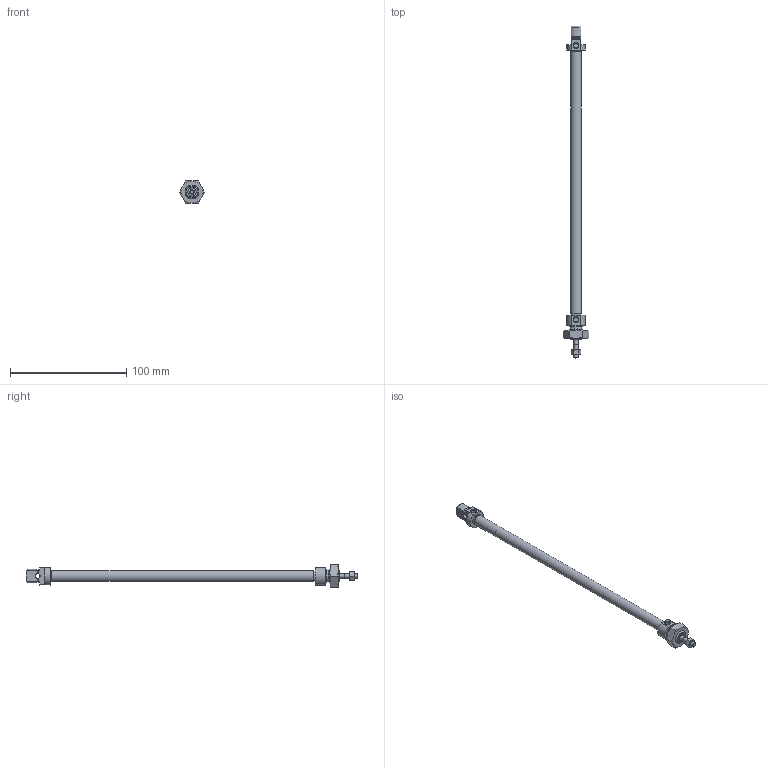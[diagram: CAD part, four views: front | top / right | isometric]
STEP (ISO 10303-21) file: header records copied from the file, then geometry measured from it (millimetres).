
FILE_DESCRIPTION(/* description */ ('Unknown'),/* implementation_level */ '2;1');
FILE_NAME(/* name */ 'RIM 8_200',/* time_stamp */ '2025-01-16T12:06:59+01:00',/* author */ ('Unknown'),/* organization */ ('HAFNER Pneumatika Kft.'),/* preprocessor_version */ 'ST-DEVELOPER v18.102',/* originating_system */ 'Solid Edge',/* authorisation */ 'Unknown');
FILE_SCHEMA (('AUTOMOTIVE_DESIGN {1 0 10303 214 3 1 1}'));
Length unit declared in the file: millimetre
Products named in the file (7): RIM 8_200; Kit_2; Kolbenstange; Profilrohr; Kit_1; Mutter_1; Mutter_2
Assembly tree (6 placements, depth 2):
  RIM 8_200
    Kit_2
    Kolbenstange
    Profilrohr
    Kit_1
    Mutter_1
    Mutter_2
Bounding box: 21.94 x 286 x 19 mm (x, y, z)
Volume: 15095.4 mm3; surface area: 20482.5 mm2
Topology: 6 solids, 6 shells, 136 faces, 280 edges, 172 vertices
Faces by surface type: plane 50, cone 49, cylinder 30, torus 7
Full cylindrical faces by diameter (mm): 3.242 x1, 4 x3, 4.134 x2, 4.426 x1, 4.7 x1, 6.5 x1, 6.6 x1, 6.7 x1, 8 x2, 8.1 x1, 8.2 x1, 9.2 x2, 9.27 x1, 10 x1, 10.647 x1, 12 x2
Entity records: 4272 total; most frequent: CARTESIAN_POINT 645, DIRECTION 570, ORIENTED_EDGE 444, AXIS2_PLACEMENT_3D 261, EDGE_CURVE 222, EDGE_LOOP 210, FACE_BOUND 210, VERTEX_POINT 164
